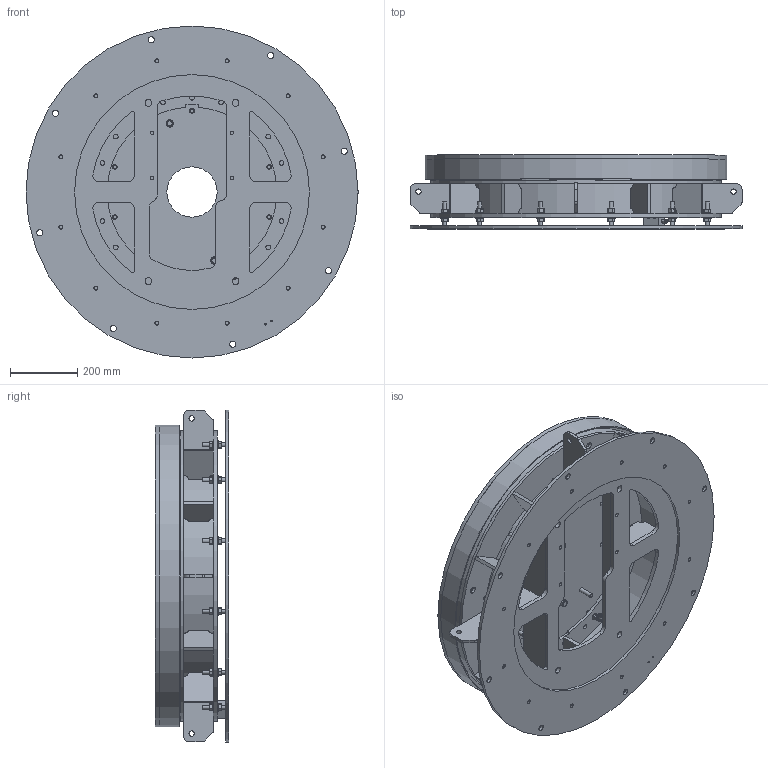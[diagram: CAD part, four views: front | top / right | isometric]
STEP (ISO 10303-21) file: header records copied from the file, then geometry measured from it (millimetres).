
FILE_DESCRIPTION(/* description */ (''),/* implementation_level */ '2;1');
FILE_NAME(/* name */ '',/* time_stamp */ '2026-06-18T12:52:14+09:00',/* author */ ('k-hotta'),/* organization */ (''),/* preprocessor_version */ 'ST-DEVELOPER v20.1',/* originating_system */ 'Autodesk Inventor 2026',/* authorisation */ '');
FILE_SCHEMA (('AUTOMOTIVE_DESIGN { 1 0 10303 214 3 1 1 }'));
Length unit declared in the file: millimetre
Products named in the file (18): 2590-00_総組立図(S-09); P151-0001; P151-0002; P151-0003; P152-0001; R0BG1280F2; PM1181; PH0402; PM1183; PM1187; PH0401; RPWG120; RSWG120; H0NG1212; HFSG1255F; PA1202; HCBG0630H; CFSG0820F2
Assembly tree (86 placements, depth 3):
  2590-00_総組立図(S-09)
    P151-0001
    P151-0002
    P151-0003
      P152-0001
      R0BG1280F2  x12
    PM1181
    PH0402
    PM1183
    PM1187
    PH0401
    RPWG120  x12
    H0NG1212  x24
    RSWG120  x12
    HFSG1255F  x10
    PA1202  x2
    HCBG0630H  x2
    CFSG0820F2  x3
Bounding box: 990 x 220 x 990 mm (x, y, z)
Volume: 24651849.2 mm3; surface area: 5502115.3 mm2
Topology: 107 solids, 107 shells, 1359 faces, 3096 edges, 1972 vertices
Faces by surface type: plane 632, cone 354, cylinder 345, torus 26, sphere 2
Full cylindrical faces by diameter (mm): 4.5 x1, 4.917 x2, 6 x2, 6.2 x2, 6.6 x6, 6.647 x3, 8 x3, 8.1 x2, 8.2 x1, 8.201 x1, 9.5 x4, 10 x3, 10.106 x40, 11 x3, 11.8 x2, 12 x23, 13 x12, 14 x42, 16 x7, 16.5 x2, 18 x8, 20 x11, 20.5 x2, 22 x2, 23.12 x10, 24 x12, 150 x1, 650 x1, 668 x1, 700 x1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
Entity records: 20416 total; most frequent: CARTESIAN_POINT 4133, DIRECTION 3443, ORIENTED_EDGE 2986, EDGE_CURVE 1493, AXIS2_PLACEMENT_3D 1384, VERTEX_POINT 972, EDGE_LOOP 853, LINE 675
